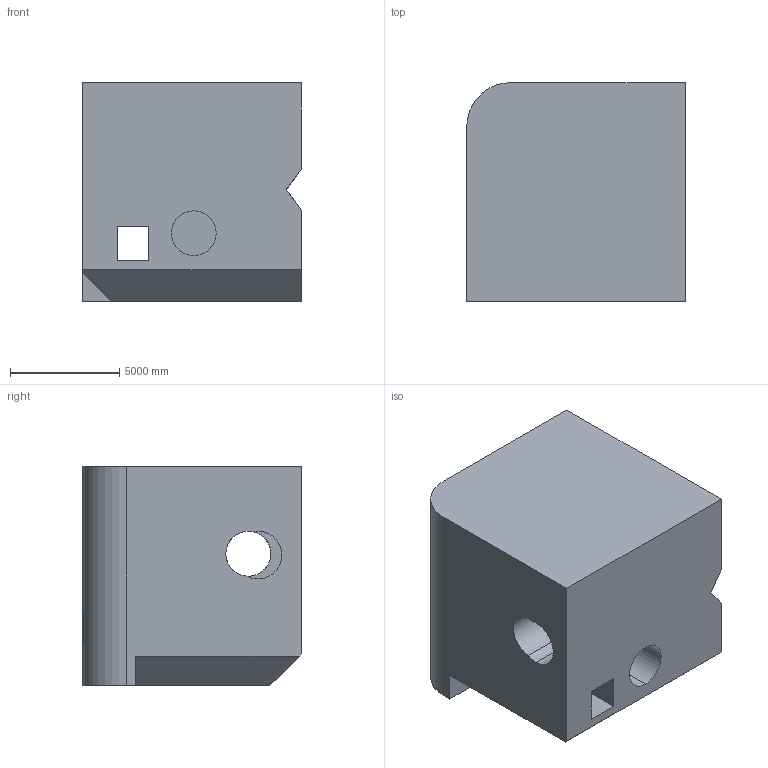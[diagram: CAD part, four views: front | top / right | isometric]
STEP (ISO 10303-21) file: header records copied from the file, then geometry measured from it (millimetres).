
FILE_DESCRIPTION (( 'STEP AP203' ), '1' );
FILE_NAME ('732.STEP', '2022-07-29T12:49:31', ( 'user' ), ( '' ), 'SwSTEP 2.0', 'SolidWorks 2021', '' );
FILE_SCHEMA (( 'CONFIG_CONTROL_DESIGN' ));
Length unit declared in the file: centimetre
Products named in the file (1): 732
Bounding box: 10000 x 10000 x 10000 mm (x, y, z)
Volume: 885806642873.2 mm3; surface area: 733561438.7 mm2
Topology: 1 solids, 1 shells, 27 faces, 78 edges, 52 vertices
Faces by surface type: plane 19, cylinder 8
Entity records: 977 total; most frequent: CARTESIAN_POINT 170, ORIENTED_EDGE 156, DIRECTION 150, EDGE_CURVE 78, LINE 54, VECTOR 54, VERTEX_POINT 52, AXIS2_PLACEMENT_3D 48
